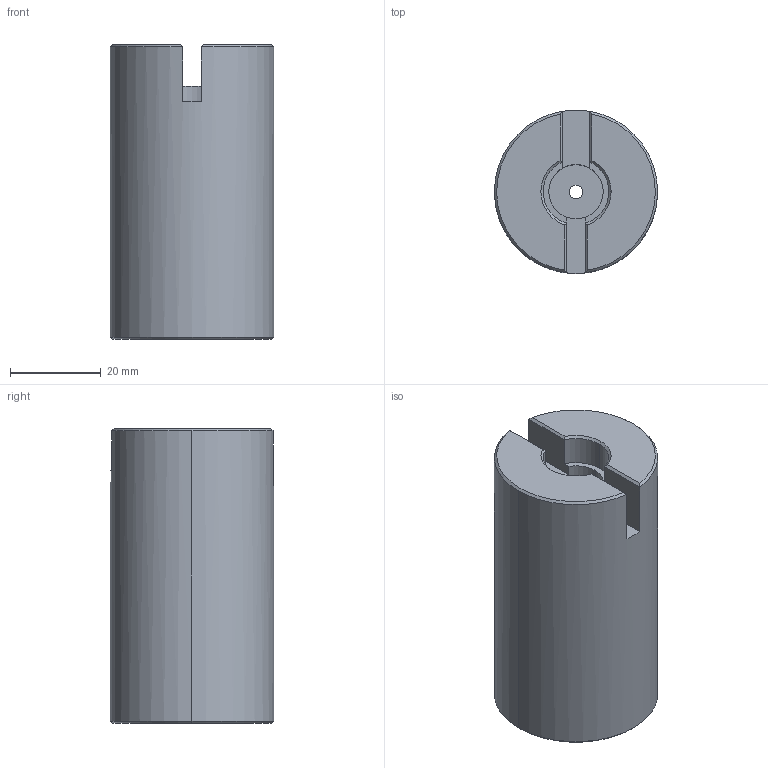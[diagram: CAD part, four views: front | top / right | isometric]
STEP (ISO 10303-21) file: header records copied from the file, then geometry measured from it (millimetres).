
FILE_DESCRIPTION(('CATIA V5 STEP Exchange'),'2;1');
FILE_NAME('C:\Users\hh\Desktop\阀体涂润滑脂治具\AGZ112 轻卡悬浮阀体（新）治具\pdf+stp\AGZ112.01_V1.stp','2024-10-31T06:33:39+00:00',('none'),('none'),'CATIA Version 5 Release 21 GA (IN-10)','CATIA V5 STEP AP214','none');
FILE_SCHEMA(('AUTOMOTIVE_DESIGN { 1 0 10303 214 1 1 1 1 }'));
Length unit declared in the file: millimetre
Products named in the file (1): AGZ112.01_V1
Bounding box: 36 x 36 x 65 mm (x, y, z)
Volume: 55122.2 mm3; surface area: 12007.7 mm2
Topology: 1 solids, 1 shells, 36 faces, 91 edges, 58 vertices
Faces by surface type: plane 17, cylinder 12, cone 7
Entity records: 1041 total; most frequent: CARTESIAN_POINT 196, ORIENTED_EDGE 182, DIRECTION 139, EDGE_CURVE 91, AXIS2_PLACEMENT_3D 71, VERTEX_POINT 58, CIRCLE 42, VECTOR 41
